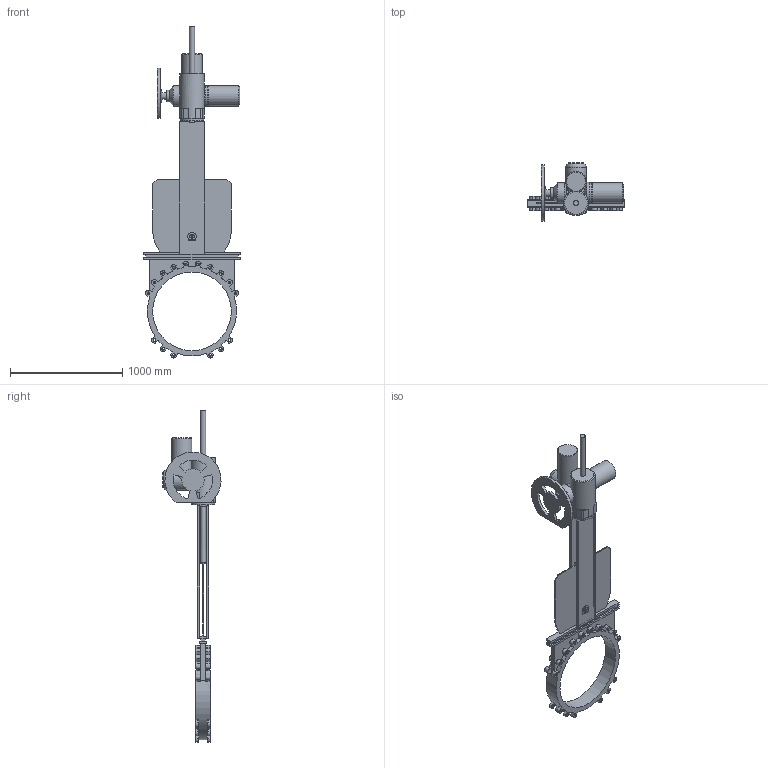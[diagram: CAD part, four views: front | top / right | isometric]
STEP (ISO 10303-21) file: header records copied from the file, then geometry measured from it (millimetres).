
FILE_DESCRIPTION(('STEP AP203'), '1');
FILE_NAME('K21GVA_DN700+MT903.A 60', '', ('UNSPECIFIED'), ('UNSPECIFIED'), 'ASCON STEP Converter 1.6', 'ASCON Math Kernel', '');
FILE_SCHEMA(('CONFIG_CONTROL_DESIGN'));
Length unit declared in the file: millimetre
Bounding box: 855 x 516.46 x 2955.4 mm (x, y, z)
Volume: 76012124.6 mm3; surface area: 5147337.2 mm2
Topology: 1 solids, 2 shells, 418 faces, 1147 edges, 755 vertices
Faces by surface type: plane 211, cylinder 176, cone 30, torus 1
Full cylindrical faces by diameter (mm): 17.5 x4, 22 x4, 23.752 x32, 46 x2, 60 x1, 80 x1, 100 x1, 130 x1, 140 x1, 180 x4, 187 x1, 191 x1, 210 x1, 220 x1, 700 x1, 794 x1
Entity records: 17210 total; most frequent: CARTESIAN_POINT 3259, DIRECTION 2292, ORIENTED_EDGE 2078, EDGE_CURVE 1039, AXIS2_PLACEMENT_3D 857, VERTEX_POINT 734, LINE 578, VECTOR 578
